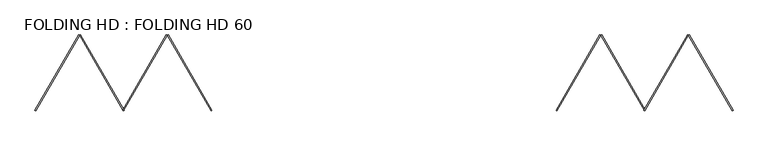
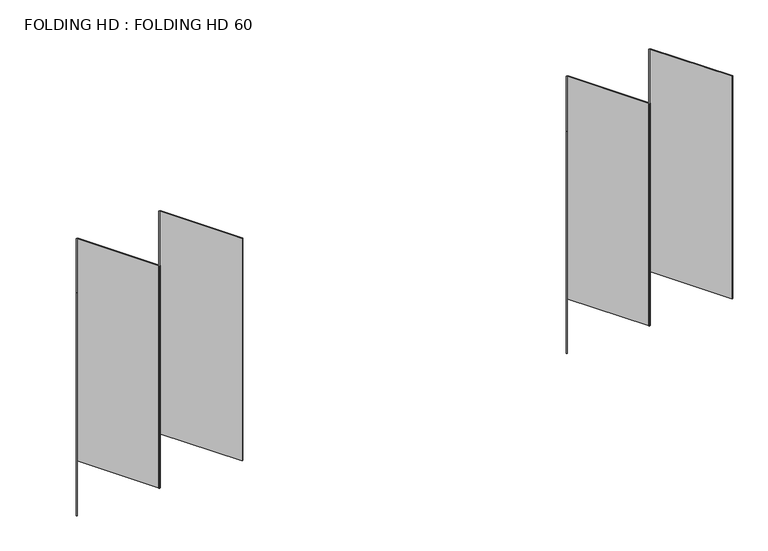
"""IFC4 building model written with IfcOpenShell, lengths in millimetres: plate geometry, FOLDING HD : FOLDING HD 60."""

from ifc_helpers import new_model, si_unit, origin, origin_with_axes, place, context, project, spatial, polyline, outline, extrude, source, transform, mapped, element, save


def folding_hd_folding_hd_60_f2b0c3be(model_context):
    return source(origin(), model_context, "Body", "SweptSolid", [
        extrude(outline(polyline([(3125.0, 779.4228635), (2675.0000001, 0.0), (2666.339746, 5.0), (3116.339746, 784.4228635), (3125.0, 779.4228635)])), origin_with_axes(), (0.0, 0.0, 1.0), 2570.0),
        extrude(outline(polyline([(3125.0, 779.4228634), (3133.660254, 784.4228634), (3583.660254, 5.0), (3575.0, 0.0), (3125.0, 779.4228634)])), origin_with_axes(), (0.0, 0.0, 1.0), 2570.0),
        extrude(outline(polyline([(2225.0, 779.4228634), (2233.660254, 784.4228634), (2683.660254, 5.0), (2675.0, 0.0), (2225.0, 779.4228634)])), origin_with_axes(), (0.0, 0.0, 1.0), 2570.0),
        extrude(outline(polyline([(2225.0, 779.4228634), (1775.0, 0.0), (1766.339746, 5.0), (2216.339746, 784.4228634), (2225.0, 779.4228634)])), origin_with_axes(), (0.0, 0.0, 1.0), 2570.0),
        extrude(outline(polyline([(-2225.0, 779.4228634), (-2675.0, 0.0), (-2683.660254, 5.0), (-2233.660254, 784.4228634), (-2225.0, 779.4228634)])), origin_with_axes(), (0.0, 0.0, 1.0), 2570.0),
        extrude(outline(polyline([(-2225.0, 779.4228634), (-2216.339746, 784.4228634), (-1766.339746, 5.0), (-1775.0, 0.0), (-2225.0, 779.4228634)])), origin_with_axes(), (0.0, 0.0, 1.0), 2570.0),
        extrude(outline(polyline([(-3125.0, 779.4228634), (-3116.339746, 784.4228634), (-2666.339746, 5.0), (-2675.0, 0.0), (-3125.0, 779.4228634)])), origin_with_axes(), (0.0, 0.0, 1.0), 2570.0),
        extrude(outline(polyline([(-3125.0, 779.4228634), (-3575.0, 0.0), (-3583.660254, 5.0), (-3133.660254, 784.4228634), (-3125.0, 779.4228634)])), origin_with_axes(), (0.0, 0.0, 1.0), 2570.0),
    ])


if __name__ == "__main__":
    model = new_model("IFC4")
    model_context = context("Model", 3, world=origin())
    ifc_project = project(units=[si_unit("LENGTHUNIT", "METRE", prefix="MILLI")], contexts=[model_context])
    site = spatial("IfcSite", under=ifc_project)
    building = spatial("IfcBuilding", under=site)
    placement = place(None, origin())
    folding_hd_folding_hd_60_shape = folding_hd_folding_hd_60_f2b0c3be(model_context)
    element("IfcPlate", 1, ObjectType="FOLDING HD : FOLDING HD 60", at=placement, inside=building, context=model_context, shape_type="MappedRepresentation", body=[
        mapped(folding_hd_folding_hd_60_shape, transform((0.0, 0.0, 0.0), x_axis=(1.0, 0.0, 0.0), y_axis=(0.0, 1.0, 0.0), z_axis=(0.0, 0.0, 1.0))),
    ])
    save(model, "model.ifc")
